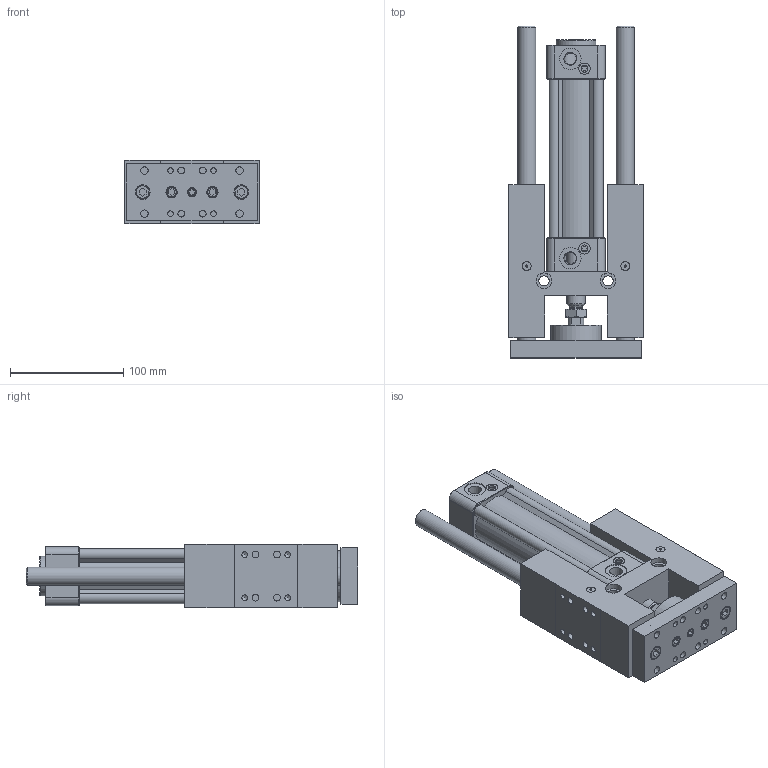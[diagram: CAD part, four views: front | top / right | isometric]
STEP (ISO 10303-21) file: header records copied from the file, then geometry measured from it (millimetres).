
FILE_DESCRIPTION((''),'2;1');
FILE_NAME('I:\3D電子目錄\氣缸\GHB(U)\GHB(U)\GHB(U)40\GHB(U)40x100.stp','2007-10-19T14:50:08',('Administrator'),(''),'Autodesk Inventor 11','Autodesk Inventor 11','');
FILE_SCHEMA(('AUTOMOTIVE_DESIGN { 1 0 10303 214 1 1 1 1 }'));
Length unit declared in the file: millimetre
Products named in the file (1): GHB(U)40
Bounding box: 119 x 293 x 56.2 mm (x, y, z)
Volume: 963822.3 mm3; surface area: 212918.6 mm2
Topology: 17 solids, 17 shells, 779 faces, 1702 edges, 1054 vertices
Faces by surface type: plane 296, bspline 215, cylinder 170, cone 89, torus 9
Full cylindrical faces by diameter (mm): 2.6 x2, 4.9 x2, 4.917 x4, 5 x4, 5.5 x10, 6 x12, 6.5 x8, 6.8 x1, 7.8 x6, 8 x5, 9 x6, 9.5 x1, 9.9 x1, 10 x5, 10.2 x8, 12 x3, 13 x2, 16 x4, 18 x1, 19 x2, 21 x2, 35 x1, 40 x1, 45 x1
Entity records: 22134 total; most frequent: CARTESIAN_POINT 6597, DIRECTION 3108, ORIENTED_EDGE 2968, EDGE_CURVE 1484, AXIS2_PLACEMENT_3D 1218, EDGE_LOOP 1096, VERTEX_POINT 1022, FACE_OUTER_BOUND 779
